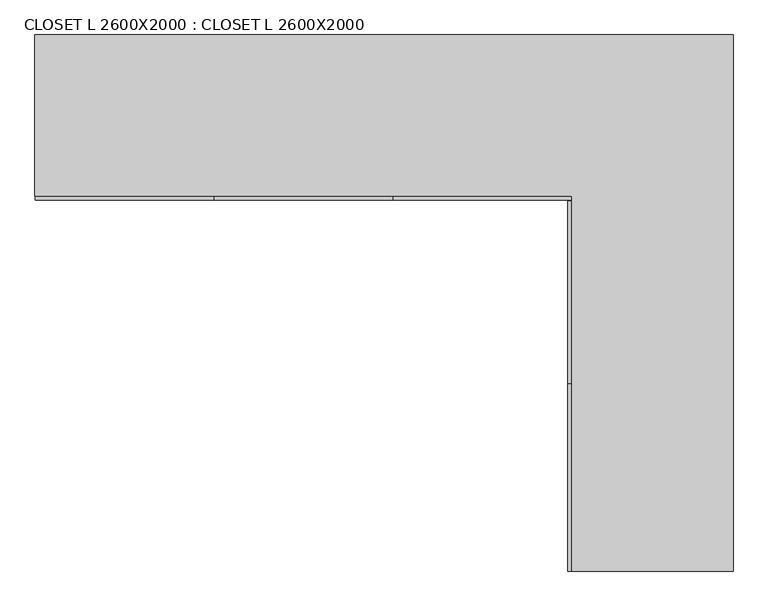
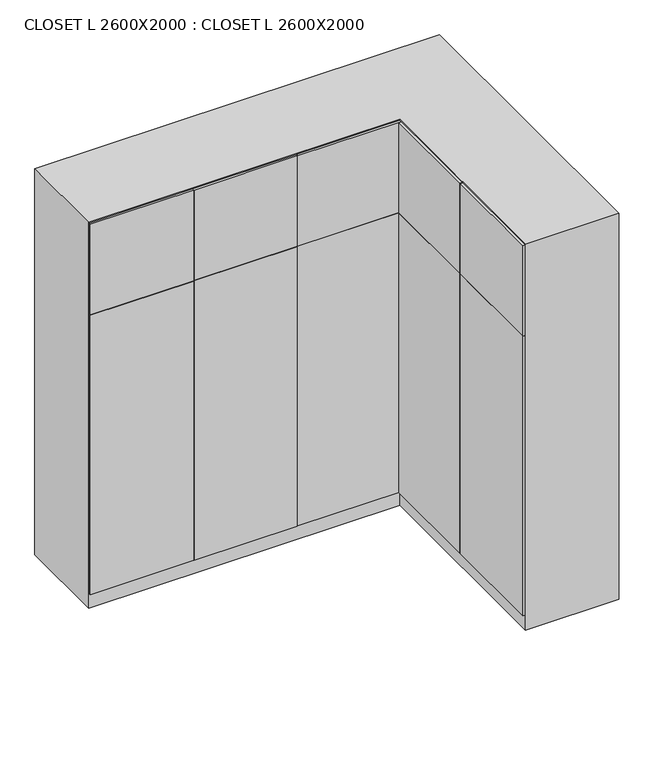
"""IFC4 building model written with IfcOpenShell, lengths in millimetres: furniture geometry, CLOSET L 2600X2000 : CLOSET L 2600X2000."""

from ifc_helpers import new_model, si_unit, frame, origin, origin_with_axes, place, context, project, spatial, polyline, outline, extrude, source, transform, mapped, element, save


def closet_l_2600x2000_closet_l_2600x2000_9fe47f77(model_context):
    return source(origin(), model_context, "Body", "SweptSolid", [
        extrude(outline(polyline([(1344.7003264, 0.0), (1344.7003264, -2000.0), (744.7003264, -2000.0), (744.7003264, -600.0), (-1255.2996736, -600.0), (-1255.2996736, 0.0), (1344.7003264, 0.0)])), origin_with_axes(), (0.0, 0.0, 1.0), 2620.0),
        extrude(outline(polyline([(729.7003264, -1298.5), (729.7003264, -619.2687259), (744.7003264, -619.2687259), (744.7003264, -1298.5), (729.7003264, -1298.5)])), frame((0.0, 0.0, 100.0), z_axis=(0.0, 0.0, 1.0), x_axis=(1.0, 0.0, 0.0)), (0.0, 0.0, 1.0), 1898.5),
        extrude(outline(polyline([(729.7003264, -1998.5), (729.7003264, -1301.5), (744.7003264, -1301.5), (744.7003264, -1998.5), (729.7003264, -1998.5)])), frame((0.0, 0.0, 100.0), z_axis=(0.0, 0.0, 1.0), x_axis=(1.0, 0.0, 0.0)), (0.0, 0.0, 1.0), 1898.5),
        extrude(outline(polyline([(743.2003264, -615.0), (79.5336598, -615.0), (79.5336598, -600.0), (743.2003264, -600.0), (743.2003264, -615.0)])), frame((0.0, 0.0, 100.0), z_axis=(0.0, 0.0, 1.0), x_axis=(1.0, 0.0, 0.0)), (0.0, 0.0, 1.0), 1898.5),
        extrude(outline(polyline([(76.5336598, -615.0), (-587.1330069, -615.0), (-587.1330069, -600.0), (76.5336598, -600.0), (76.5336598, -615.0)])), frame((0.0, 0.0, 100.0), z_axis=(0.0, 0.0, 1.0), x_axis=(1.0, 0.0, 0.0)), (0.0, 0.0, 1.0), 1898.5),
        extrude(outline(polyline([(-590.1330069, -615.0), (-1253.7996736, -615.0), (-1253.7996736, -600.0), (-590.1330069, -600.0), (-590.1330069, -615.0)])), frame((0.0, 0.0, 100.0), z_axis=(0.0, 0.0, 1.0), x_axis=(1.0, 0.0, 0.0)), (0.0, 0.0, 1.0), 1898.5),
        extrude(outline(polyline([(729.7003264, -1298.5), (729.7003264, -619.2687259), (744.7003264, -619.2687259), (744.7003264, -1298.5), (729.7003264, -1298.5)])), frame((0.0, 0.0, 2001.5), z_axis=(0.0, 0.0, 1.0), x_axis=(1.0, 0.0, 0.0)), (0.0, 0.0, 1.0), 613.5),
        extrude(outline(polyline([(729.7003264, -1998.5), (729.7003264, -1301.5), (744.7003264, -1301.5), (744.7003264, -1998.5), (729.7003264, -1998.5)])), frame((0.0, 0.0, 2001.5), z_axis=(0.0, 0.0, 1.0), x_axis=(1.0, 0.0, 0.0)), (0.0, 0.0, 1.0), 613.5),
        extrude(outline(polyline([(-590.1330069, -615.0), (-1253.7996736, -615.0), (-1253.7996736, -600.0), (-590.1330069, -600.0), (-590.1330069, -615.0)])), frame((0.0, 0.0, 2001.5), z_axis=(0.0, 0.0, 1.0), x_axis=(1.0, 0.0, 0.0)), (0.0, 0.0, 1.0), 613.5),
        extrude(outline(polyline([(76.5336598, -615.0), (-587.1330069, -615.0), (-587.1330069, -600.0), (76.5336598, -600.0), (76.5336598, -615.0)])), frame((0.0, 0.0, 2001.5), z_axis=(0.0, 0.0, 1.0), x_axis=(1.0, 0.0, 0.0)), (0.0, 0.0, 1.0), 613.5),
        extrude(outline(polyline([(743.2003264, -615.0), (79.5336598, -615.0), (79.5336598, -600.0), (743.2003264, -600.0), (743.2003264, -615.0)])), frame((0.0, 0.0, 2001.5), z_axis=(0.0, 0.0, 1.0), x_axis=(1.0, 0.0, 0.0)), (0.0, 0.0, 1.0), 613.5),
    ])


if __name__ == "__main__":
    model = new_model("IFC4")
    model_context = context("Model", 3, world=origin())
    ifc_project = project(units=[si_unit("LENGTHUNIT", "METRE", prefix="MILLI")], contexts=[model_context])
    site = spatial("IfcSite", under=ifc_project)
    building = spatial("IfcBuilding", under=site)
    placement = place(None, origin())
    closet_l_2600x2000_closet_l_2600x2000_shape = closet_l_2600x2000_closet_l_2600x2000_9fe47f77(model_context)
    element("IfcFurniture", 1, ObjectType="CLOSET L 2600X2000 : CLOSET L 2600X2000", at=placement, inside=building, context=model_context, shape_type="MappedRepresentation", body=[
        mapped(closet_l_2600x2000_closet_l_2600x2000_shape, transform((0.0, 0.0, 0.0), x_axis=(1.0, 0.0, 0.0), y_axis=(0.0, 1.0, 0.0), z_axis=(0.0, 0.0, 1.0))),
    ])
    save(model, "model.ifc")
